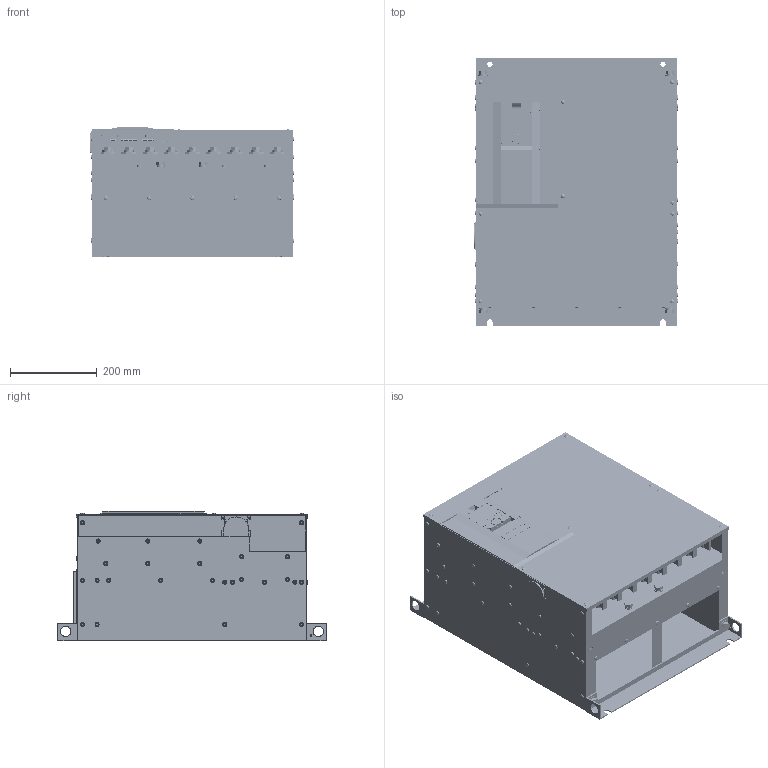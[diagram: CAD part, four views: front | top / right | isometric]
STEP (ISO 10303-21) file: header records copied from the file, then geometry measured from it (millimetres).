
FILE_DESCRIPTION((''),'2;1');
FILE_NAME('3D-INV-A8-02_15_ASM','2014-01-24T',('UJ56049'),(''),'PRO/ENGINEER BY PARAMETRIC TECHNOLOGY CORPORATION, 2011490','PRO/ENGINEER BY PARAMETRIC TECHNOLOGY CORPORATION, 2011490','');
FILE_SCHEMA(('CONFIG_CONTROL_DESIGN'));
Products named in the file (33): 3D-BASE-A8-02_15; 3D-WAKU-A8-02_15_ASM; 3D-ASHI_UPR-A8-02_15; 3D-BOLT-ASHI-UPR-A8-02_15; 3D-BOLT-ASHI-UPR-A8-02_15_ASM; 3D-ASHI_LWR-A8-02_15; 3D-BOLT-ASHI-LWR-A8-02_15; 3D-BOLT-ASHI-LWR-A8-02_15_ASM; 3D-BUSH-A8; 3D-BUSH-A8_ASM; 3D-BOLT-SW-PW-P-M10X16_; 3D-FANX3-A8-02_15; 3D-FANX3-A8-02_15_ASM; 3D-FAN-COVX3-A8-02_15; 3D-FAN-COV-A8-02_15_ASM; 3D-TE_NEJI-M4X8_; 3D-TE_COV-R1S1_; 3D-TE_ASSY-R1S1_ASM; 3D-TA-A8; 3D-A8-TA_ASM; 3D-UPM-10X30A8-02_15; 3D-UPM10X30-A8_ASM; 3D-RES-COVER-A8; 3D-UPM10X30-A8-02_15_ASM; 3D-CA_COVER-A8; 3D-DU_ASSY-A8; 3D-IF_COV-A80; 3D-SC-PN-BD-M4X10-BZN-A8; 3D-CA_COV-A8_ASM; 3D-COV-U-A8-02_15; 3D-SC-M4X10-BZN; 3D-COV-A8-02_15_ASM; 3D-INV-A8-02_15_ASM
Assembly tree (50 placements, depth 4):
  3D-INV-A8-02_15_ASM
    3D-WAKU-A8-02_15_ASM
      3D-BASE-A8-02_15
    3D-ASHI_UPR-A8-02_15
    3D-BOLT-ASHI-UPR-A8-02_15_ASM
      3D-BOLT-ASHI-UPR-A8-02_15
    3D-ASHI_LWR-A8-02_15
    3D-BOLT-ASHI-LWR-A8-02_15_ASM
      3D-BOLT-ASHI-LWR-A8-02_15
    3D-BUSH-A8_ASM
      3D-BUSH-A8
    3D-BOLT-SW-PW-P-M10X16_  x2
    3D-FANX3-A8-02_15_ASM
      3D-FANX3-A8-02_15
    3D-FAN-COV-A8-02_15_ASM
      3D-FAN-COVX3-A8-02_15
    3D-TE_ASSY-R1S1_ASM
      3D-TE_NEJI-M4X8_  x4
      3D-TE_COV-R1S1_
    3D-A8-TA_ASM
      3D-TA-A8
    3D-UPM10X30-A8-02_15_ASM
      3D-UPM10X30-A8_ASM  x9
        3D-UPM-10X30A8-02_15
      3D-RES-COVER-A8  x3
    3D-CA_COV-A8_ASM
      3D-CA_COVER-A8
      3D-DU_ASSY-A8
      3D-IF_COV-A80
      3D-SC-PN-BD-M4X10-BZN-A8  x2
    3D-COV-A8-02_15_ASM
      3D-COV-U-A8-02_15
      3D-SC-M4X10-BZN  x4
Bounding box: 472 x 620 x 300.2 mm (x, y, z)
Volume: 51827043.4 mm3; surface area: 3067620.2 mm2
Topology: 48 solids, 70 shells, 5211 faces, 13679 edges, 8956 vertices
Faces by surface type: plane 3326, cylinder 1452, torus 180, cone 120, sphere 70, bspline 63
Entity records: 153318 total; most frequent: CARTESIAN_POINT 28761, DIRECTION 25885, ORIENTED_EDGE 25514, EDGE_CURVE 12757, VECTOR 8933, LINE 8933, AXIS2_PLACEMENT_3D 8476, VERTEX_POINT 8412
